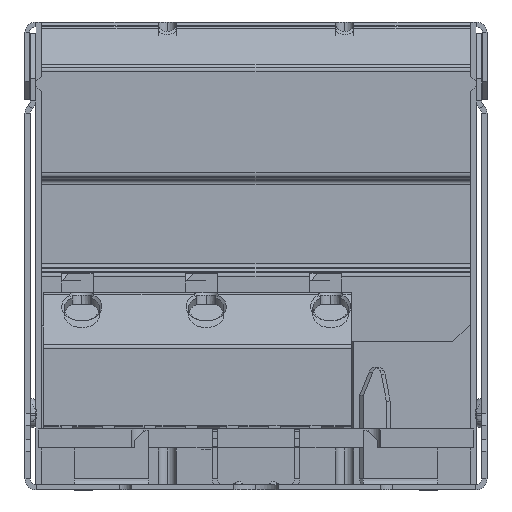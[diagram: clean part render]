
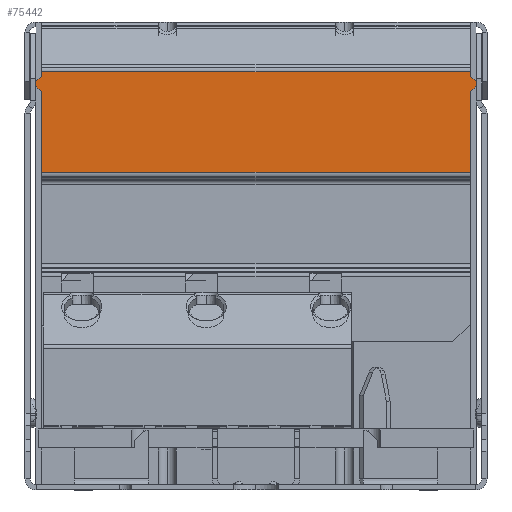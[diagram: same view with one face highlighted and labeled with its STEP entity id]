
A CAD part, left-side view. The second image highlights one B-rep face of the part: STEP entity #75442.
In plain terms, the highlighted planar face has unit normal (-1, 0, 0).
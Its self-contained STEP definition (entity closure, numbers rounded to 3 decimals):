
#1313 = VECTOR ( 'NONE', #85063, 1000. ) ;
#1462 = EDGE_CURVE ( 'NONE', #63649, #18865, #3465, .T. ) ;
#1649 = CARTESIAN_POINT ( 'NONE',  ( -173.515, 18.1, 11.756 ) ) ;
#3465 = LINE ( 'NONE', #18342, #74295 ) ;
#7540 = CARTESIAN_POINT ( 'NONE',  ( -173.515, -18.1, 11.756 ) ) ;
#7591 = CARTESIAN_POINT ( 'NONE',  ( -173.515, -18.1, 33.173 ) ) ;
#7847 = EDGE_CURVE ( 'NONE', #47069, #38715, #52337, .T. ) ;
#8215 = VECTOR ( 'NONE', #48131, 1000. ) ;
#8336 = DIRECTION ( 'NONE',  ( 0., 0., 1. ) ) ;
#8419 = CARTESIAN_POINT ( 'NONE',  ( -173.515, 18.1, 34.473 ) ) ;
#8585 = DIRECTION ( 'NONE',  ( 0., 0., -1. ) ) ;
#8847 = VERTEX_POINT ( 'NONE', #57300 ) ;
#8924 = CARTESIAN_POINT ( 'NONE',  ( -173.515, -18.75, 33.823 ) ) ;
#10039 = EDGE_CURVE ( 'NONE', #63649, #52301, #19561, .T. ) ;
#10195 = ORIENTED_EDGE ( 'NONE', *, *, #32346, .F. ) ;
#13177 = DIRECTION ( 'NONE',  ( 0., 0., 1. ) ) ;
#13209 = VERTEX_POINT ( 'NONE', #54174 ) ;
#14265 = DIRECTION ( 'NONE',  ( 0., 0., -1. ) ) ;
#15660 = DIRECTION ( 'NONE',  ( 0., -0.707, -0.707 ) ) ;
#16474 = LINE ( 'NONE', #67738, #83136 ) ;
#16834 = CARTESIAN_POINT ( 'NONE',  ( -173.515, 0., 209.923 ) ) ;
#16998 = ORIENTED_EDGE ( 'NONE', *, *, #61079, .F. ) ;
#17246 = LINE ( 'NONE', #49905, #83868 ) ;
#18342 = CARTESIAN_POINT ( 'NONE',  ( -173.515, -18.1, 33.173 ) ) ;
#18776 = CARTESIAN_POINT ( 'NONE',  ( -173.515, 18.75, 33.823 ) ) ;
#18865 = VERTEX_POINT ( 'NONE', #7591 ) ;
#19561 = LINE ( 'NONE', #21146, #37237 ) ;
#21146 = CARTESIAN_POINT ( 'NONE',  ( -173.515, -18.6, -19.313 ) ) ;
#23378 = CARTESIAN_POINT ( 'NONE',  ( -173.515, 0., 26.384 ) ) ;
#23554 = DIRECTION ( 'NONE',  ( 0., 0., -1. ) ) ;
#24067 = VECTOR ( 'NONE', #8336, 1000. ) ;
#25000 = LINE ( 'NONE', #68253, #58270 ) ;
#25929 = VERTEX_POINT ( 'NONE', #71311 ) ;
#27697 = ORIENTED_EDGE ( 'NONE', *, *, #30367, .T. ) ;
#29579 = FACE_OUTER_BOUND ( 'NONE', #47763, .T. ) ;
#30367 = EDGE_CURVE ( 'NONE', #47069, #8847, #25000, .T. ) ;
#31199 = ORIENTED_EDGE ( 'NONE', *, *, #1462, .F. ) ;
#32201 = ORIENTED_EDGE ( 'NONE', *, *, #7847, .F. ) ;
#32274 = EDGE_CURVE ( 'NONE', #86092, #25929, #16474, .T. ) ;
#32346 = EDGE_CURVE ( 'NONE', #69744, #52301, #52843, .T. ) ;
#33183 = LINE ( 'NONE', #7540, #66472 ) ;
#35188 = VECTOR ( 'NONE', #15660, 1000. ) ;
#37100 = EDGE_CURVE ( 'NONE', #18865, #40972, #33183, .T. ) ;
#37237 = VECTOR ( 'NONE', #80498, 1000. ) ;
#37860 = EDGE_CURVE ( 'NONE', #25929, #69744, #17246, .T. ) ;
#38715 = VERTEX_POINT ( 'NONE', #8419 ) ;
#40228 = CARTESIAN_POINT ( 'NONE',  ( -173.515, -18.1, 34.473 ) ) ;
#40893 = CARTESIAN_POINT ( 'NONE',  ( -173.515, -18.6, 33.973 ) ) ;
#40972 = VERTEX_POINT ( 'NONE', #57782 ) ;
#41711 = LINE ( 'NONE', #1649, #24067 ) ;
#44691 = CARTESIAN_POINT ( 'NONE',  ( -173.515, 18.6, 33.973 ) ) ;
#46316 = CARTESIAN_POINT ( 'NONE',  ( -173.515, 18.1, 34.473 ) ) ;
#47069 = VERTEX_POINT ( 'NONE', #44691 ) ;
#47451 = AXIS2_PLACEMENT_3D ( 'NONE', #16834, #63399, #23554 ) ;
#47763 = EDGE_LOOP ( 'NONE', ( #32201, #27697, #16998, #65565, #54481, #65513, #31199, #61483, #10195, #51138, #79364, #48741 ) ) ;
#48131 = DIRECTION ( 'NONE',  ( 0., 0.707, 0.707 ) ) ;
#48741 = ORIENTED_EDGE ( 'NONE', *, *, #64248, .F. ) ;
#49905 = CARTESIAN_POINT ( 'NONE',  ( -173.515, -18.1, 34.473 ) ) ;
#51138 = ORIENTED_EDGE ( 'NONE', *, *, #37860, .F. ) ;
#52301 = VERTEX_POINT ( 'NONE', #40893 ) ;
#52337 = LINE ( 'NONE', #18776, #1313 ) ;
#52843 = LINE ( 'NONE', #8924, #35188 ) ;
#54174 = CARTESIAN_POINT ( 'NONE',  ( -173.515, 18.1, 26.384 ) ) ;
#54481 = ORIENTED_EDGE ( 'NONE', *, *, #74825, .F. ) ;
#56150 = CARTESIAN_POINT ( 'NONE',  ( -173.515, 18.1, 34.836 ) ) ;
#56608 = DIRECTION ( 'NONE',  ( 0., 0., -1. ) ) ;
#56760 = CARTESIAN_POINT ( 'NONE',  ( -173.515, 18.1, 33.173 ) ) ;
#57300 = CARTESIAN_POINT ( 'NONE',  ( -173.515, 18.6, 33.672 ) ) ;
#57782 = CARTESIAN_POINT ( 'NONE',  ( -173.515, -18.1, 26.384 ) ) ;
#58187 = DIRECTION ( 'NONE',  ( 0., 0.707, -0.707 ) ) ;
#58270 = VECTOR ( 'NONE', #8585, 1000. ) ;
#58766 = VERTEX_POINT ( 'NONE', #56760 ) ;
#58820 = LINE ( 'NONE', #46316, #74466 ) ;
#60697 = EDGE_CURVE ( 'NONE', #13209, #58766, #41711, .T. ) ;
#61079 = EDGE_CURVE ( 'NONE', #58766, #8847, #61382, .T. ) ;
#61382 = LINE ( 'NONE', #81377, #8215 ) ;
#61483 = ORIENTED_EDGE ( 'NONE', *, *, #10039, .T. ) ;
#63399 = DIRECTION ( 'NONE',  ( 1., 0., 0. ) ) ;
#63649 = VERTEX_POINT ( 'NONE', #83434 ) ;
#64248 = EDGE_CURVE ( 'NONE', #38715, #86092, #58820, .T. ) ;
#65513 = ORIENTED_EDGE ( 'NONE', *, *, #37100, .F. ) ;
#65565 = ORIENTED_EDGE ( 'NONE', *, *, #60697, .F. ) ;
#66182 = VECTOR ( 'NONE', #83014, 1000. ) ;
#66472 = VECTOR ( 'NONE', #14265, 1000. ) ;
#67738 = CARTESIAN_POINT ( 'NONE',  ( -173.515, 0., 34.836 ) ) ;
#68253 = CARTESIAN_POINT ( 'NONE',  ( -173.515, 18.6, -19.313 ) ) ;
#69744 = VERTEX_POINT ( 'NONE', #40228 ) ;
#69809 = PLANE ( 'NONE',  #47451 ) ;
#71311 = CARTESIAN_POINT ( 'NONE',  ( -173.515, -18.1, 34.836 ) ) ;
#74295 = VECTOR ( 'NONE', #58187, 1000. ) ;
#74459 = DIRECTION ( 'NONE',  ( 0., -1., 0. ) ) ;
#74466 = VECTOR ( 'NONE', #13177, 1000. ) ;
#74825 = EDGE_CURVE ( 'NONE', #40972, #13209, #85950, .T. ) ;
#75442 = ADVANCED_FACE ( 'NONE', ( #29579 ), #69809, .F. ) ;
#79364 = ORIENTED_EDGE ( 'NONE', *, *, #32274, .F. ) ;
#80498 = DIRECTION ( 'NONE',  ( 0., 0., 1. ) ) ;
#81377 = CARTESIAN_POINT ( 'NONE',  ( -173.515, 18.1, 33.173 ) ) ;
#83014 = DIRECTION ( 'NONE',  ( 0., 1., 0. ) ) ;
#83136 = VECTOR ( 'NONE', #74459, 1000. ) ;
#83434 = CARTESIAN_POINT ( 'NONE',  ( -173.515, -18.6, 33.672 ) ) ;
#83868 = VECTOR ( 'NONE', #56608, 1000. ) ;
#85063 = DIRECTION ( 'NONE',  ( 0., -0.707, 0.707 ) ) ;
#85950 = LINE ( 'NONE', #23378, #66182 ) ;
#86092 = VERTEX_POINT ( 'NONE', #56150 ) ;
